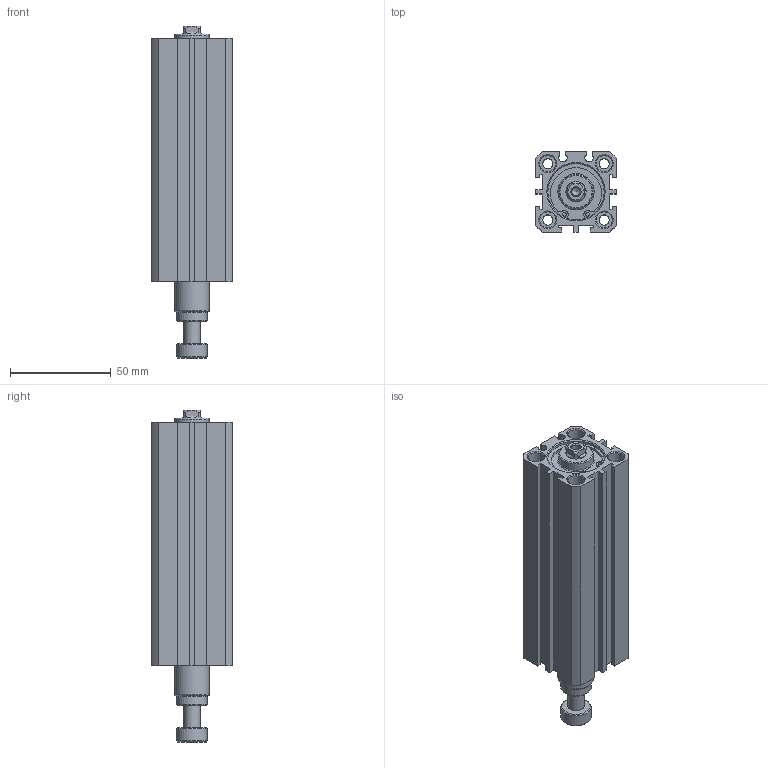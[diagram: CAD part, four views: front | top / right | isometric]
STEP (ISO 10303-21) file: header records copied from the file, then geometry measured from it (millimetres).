
FILE_DESCRIPTION((''),'2;1');
FILE_NAME('I:\3D電子目錄\氣缸\JDAR\JDAR\JDAR25\JDAR25x100.stp','2007-03-14T10:01:27',('662F206'),(''),'Autodesk Inventor 11','Autodesk Inventor 11','');
FILE_SCHEMA(('AUTOMOTIVE_DESIGN { 1 0 10303 214 1 1 1 1 }'));
Length unit declared in the file: millimetre
Products named in the file (3): JDAR25; R 形環 28
Assembly tree (3 placements, depth 2):
  JDAR25
    JDAR25
    R 形環 28  x2
Bounding box: 40 x 40 x 165.1 mm (x, y, z)
Volume: 164421 mm3; surface area: 43253.1 mm2
Topology: 3 solids, 3 shells, 165 faces, 384 edges, 249 vertices
Faces by surface type: plane 86, cylinder 48, cone 21, bspline 8, torus 2
Full cylindrical faces by diameter (mm): 1.5 x2, 1.9 x4, 5.1 x4, 8 x9, 10 x1, 15 x2, 17 x2, 28 x4, 29.4 x2
Entity records: 4249 total; most frequent: CARTESIAN_POINT 853, DIRECTION 706, ORIENTED_EDGE 588, EDGE_CURVE 294, AXIS2_PLACEMENT_3D 269, EDGE_LOOP 242, VERTEX_POINT 222, VECTOR 168
